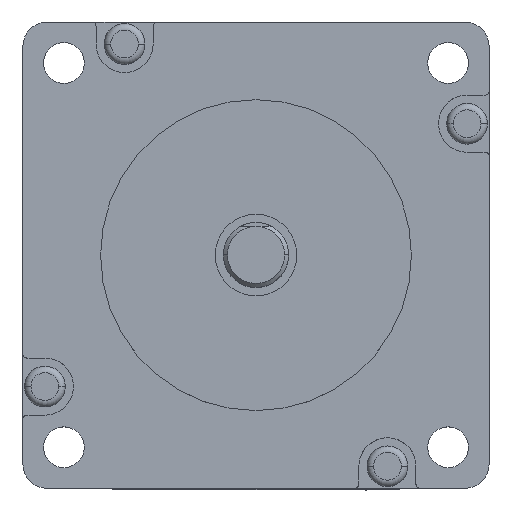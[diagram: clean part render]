
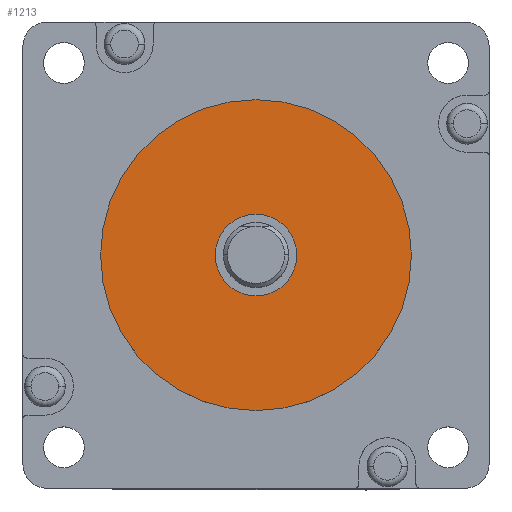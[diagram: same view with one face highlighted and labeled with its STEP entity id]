
A CAD part, top view. The second image highlights one B-rep face of the part: STEP entity #1213.
In plain terms, the highlighted planar face has unit normal (0, 0, 1).
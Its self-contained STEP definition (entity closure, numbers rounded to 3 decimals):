
#9 = CIRCLE ( 'NONE', #17, 5. ) ;
#17 = AXIS2_PLACEMENT_3D ( 'NONE', #3416, #3415, #3414 ) ;
#174 = CIRCLE ( 'NONE', #181, 19.05 ) ;
#181 = AXIS2_PLACEMENT_3D ( 'NONE', #4377, #4376, #4541 ) ;
#972 = CARTESIAN_POINT ( 'NONE',  ( 5., 0., 11.6 ) ) ;
#1044 = CARTESIAN_POINT ( 'NONE',  ( -19.05, 0., 11.6 ) ) ;
#1049 = CARTESIAN_POINT ( 'NONE',  ( -5., 0., 11.6 ) ) ;
#1069 = CARTESIAN_POINT ( 'NONE',  ( 19.05, 0., 11.6 ) ) ;
#1213 = ADVANCED_FACE ( 'NONE', ( #3961, #3962 ), #6460, .T. ) ;
#1405 = EDGE_CURVE ( 'NONE', #7610, #7553, #8107, .T. ) ;
#1580 = AXIS2_PLACEMENT_3D ( 'NONE', #3471, #3470, #3469 ) ;
#2309 = EDGE_CURVE ( 'NONE', #7562, #7408, #2390, .T. ) ;
#2390 = CIRCLE ( 'NONE', #1580, 5. ) ;
#2436 = EDGE_CURVE ( 'NONE', #7408, #7562, #9, .T. ) ;
#2561 = EDGE_CURVE ( 'NONE', #7553, #7610, #174, .T. ) ;
#3414 = DIRECTION ( 'NONE',  ( 1., 0., 0. ) ) ;
#3415 = DIRECTION ( 'NONE',  ( 0., 0., 1. ) ) ;
#3416 = CARTESIAN_POINT ( 'NONE',  ( 0., 0., 11.6 ) ) ;
#3469 = DIRECTION ( 'NONE',  ( 1., 0., 0. ) ) ;
#3470 = DIRECTION ( 'NONE',  ( 0., 0., 1. ) ) ;
#3471 = CARTESIAN_POINT ( 'NONE',  ( 0., 0., 11.6 ) ) ;
#3961 = FACE_BOUND ( 'NONE', #7599, .T. ) ;
#3962 = FACE_OUTER_BOUND ( 'NONE', #6895, .T. ) ;
#4203 = AXIS2_PLACEMENT_3D ( 'NONE', #6457, #6455, #6220 ) ;
#4376 = DIRECTION ( 'NONE',  ( 0., 0., 1. ) ) ;
#4377 = CARTESIAN_POINT ( 'NONE',  ( 0., 0., 11.6 ) ) ;
#4541 = DIRECTION ( 'NONE',  ( 1., 0., 0. ) ) ;
#6172 = CARTESIAN_POINT ( 'NONE',  ( 0., 0., 11.6 ) ) ;
#6176 = DIRECTION ( 'NONE',  ( 0., 0., 1. ) ) ;
#6220 = DIRECTION ( 'NONE',  ( 1., 0., 0. ) ) ;
#6330 = DIRECTION ( 'NONE',  ( 1., 0., 0. ) ) ;
#6455 = DIRECTION ( 'NONE',  ( 0., 0., 1. ) ) ;
#6457 = CARTESIAN_POINT ( 'NONE',  ( 0., 0., 11.6 ) ) ;
#6460 = PLANE ( 'NONE',  #4203 ) ;
#6886 = ORIENTED_EDGE ( 'NONE', *, *, #1405, .T. ) ;
#6895 = EDGE_LOOP ( 'NONE', ( #7067, #6886 ) ) ;
#7042 = ORIENTED_EDGE ( 'NONE', *, *, #2309, .F. ) ;
#7067 = ORIENTED_EDGE ( 'NONE', *, *, #2561, .T. ) ;
#7222 = ORIENTED_EDGE ( 'NONE', *, *, #2436, .F. ) ;
#7408 = VERTEX_POINT ( 'NONE', #972 ) ;
#7553 = VERTEX_POINT ( 'NONE', #1044 ) ;
#7562 = VERTEX_POINT ( 'NONE', #1049 ) ;
#7599 = EDGE_LOOP ( 'NONE', ( #7222, #7042 ) ) ;
#7610 = VERTEX_POINT ( 'NONE', #1069 ) ;
#8107 = CIRCLE ( 'NONE', #8190, 19.05 ) ;
#8190 = AXIS2_PLACEMENT_3D ( 'NONE', #6172, #6176, #6330 ) ;
